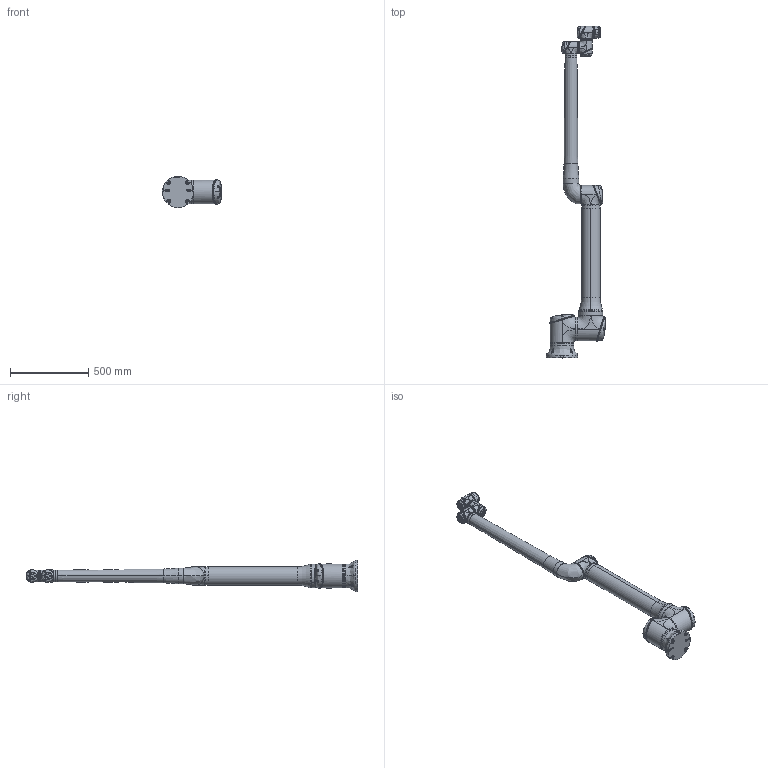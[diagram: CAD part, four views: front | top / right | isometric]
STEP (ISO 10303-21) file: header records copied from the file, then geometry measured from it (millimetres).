
FILE_DESCRIPTION (( 'STEP AP203' ), '1' );
FILE_NAME ('EC_掛极EC64-19_V1.1.STEP', '2023-03-30T08:09:23', ( '' ), ( '' ), 'SwSTEP 2.0', 'SolidWorks 2017', '' );
FILE_SCHEMA (( 'CONFIG_CONTROL_DESIGN' ));
Length unit declared in the file: millimetre
Products named in the file (8): Link1; Link3; Link5; LINK6; EC_掛极EC64-19_V1.1; Link4; Base; Link2
Assembly tree (7 placements, depth 2):
  EC_掛极EC64-19_V1.1
    Base
    Link1
    Link2
    Link3
    Link4
    Link5
    LINK6
Bounding box: 378.91 x 2124.32 x 199.8 mm (x, y, z)
Volume: 26821521.1 mm3; surface area: 1248530.7 mm2
Topology: 17 solids, 21 shells, 2822 faces, 6627 edges, 3977 vertices
Faces by surface type: bspline 1501, plane 386, cylinder 375, torus 313, cone 247
Entity records: 239854 total; most frequent: CARTESIAN_POINT 185481, ORIENTED_EDGE 13222, DIRECTION 8168, EDGE_CURVE 6611, VERTEX_POINT 3977, AXIS2_PLACEMENT_3D 3629, B_SPLINE_CURVE_WITH_KNOTS 3346, EDGE_LOOP 3006
